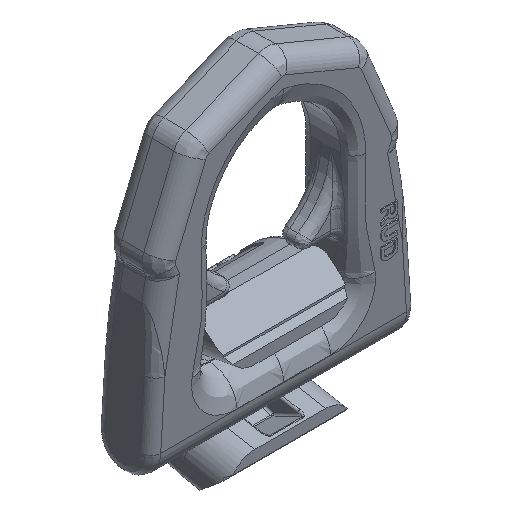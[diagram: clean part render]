
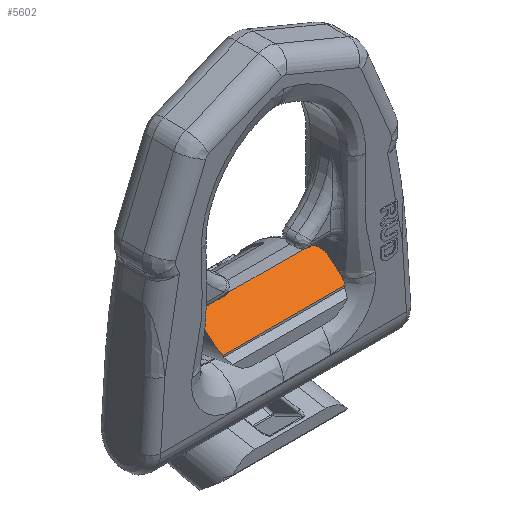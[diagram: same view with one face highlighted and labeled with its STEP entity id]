
A CAD part, isometric view. The second image highlights one B-rep face of the part: STEP entity #5602.
In plain terms, the highlighted planar face has unit normal (0, -0.643, 0.766).
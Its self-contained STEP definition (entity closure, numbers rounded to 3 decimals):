
#2=DIRECTION('',(0.,-0.766,-0.643));
#3=VECTOR('',#2,5.783);
#4=CARTESIAN_POINT('',(-30.,11.5,33.305));
#5=LINE('',#4,#3);
#59=DIRECTION('',(0.,-0.766,-0.643));
#60=VECTOR('',#59,5.783);
#61=CARTESIAN_POINT('',(30.,11.5,33.305));
#62=LINE('',#61,#60);
#450=CARTESIAN_POINT('',(-29.347,3.,26.172));
#451=CARTESIAN_POINT('',(-29.787,4.335,27.293));
#452=CARTESIAN_POINT('',(-30.,5.692,28.431));
#453=CARTESIAN_POINT('',(-30.,7.07,29.587));
#481=CARTESIAN_POINT('',(25.,16.5,37.5));
#482=CARTESIAN_POINT('',(25.48,16.5,37.5));
#483=CARTESIAN_POINT('',(26.277,16.374,37.395));
#484=CARTESIAN_POINT('',(27.557,15.883,36.983));
#485=CARTESIAN_POINT('',(28.749,14.957,36.205));
#486=CARTESIAN_POINT('',(29.704,13.48,34.966));
#487=CARTESIAN_POINT('',(30.,12.236,33.922));
#488=CARTESIAN_POINT('',(30.,11.5,33.305));
#494=DIRECTION('',(1.,0.,0.));
#495=VECTOR('',#494,50.);
#496=CARTESIAN_POINT('',(-25.,16.5,37.5));
#497=LINE('',#496,#495);
#511=CARTESIAN_POINT('',(-30.,11.5,33.305));
#512=CARTESIAN_POINT('',(-30.,12.236,33.922));
#513=CARTESIAN_POINT('',(-29.704,13.48,34.966));
#514=CARTESIAN_POINT('',(-28.749,14.957,36.205));
#515=CARTESIAN_POINT('',(-27.557,15.883,36.983));
#516=CARTESIAN_POINT('',(-26.277,16.374,37.395));
#517=CARTESIAN_POINT('',(-25.48,16.5,37.5));
#518=CARTESIAN_POINT('',(-25.,16.5,37.5));
#4043=CARTESIAN_POINT('',(30.,7.07,29.587));
#4044=CARTESIAN_POINT('',(30.,5.692,28.431));
#4045=CARTESIAN_POINT('',(29.787,4.335,27.293));
#4046=CARTESIAN_POINT('',(29.347,3.,26.172));
#4069=DIRECTION('',(-1.,0.,0.));
#4070=VECTOR('',#4069,58.693);
#4071=CARTESIAN_POINT('',(29.347,3.,26.172));
#4072=LINE('',#4071,#4070);
#4269=CARTESIAN_POINT('',(25.,16.5,37.5));
#4271=VERTEX_POINT('',#4269);
#4274=CARTESIAN_POINT('',(-25.,16.5,37.5));
#4276=VERTEX_POINT('',#4274);
#4569=CARTESIAN_POINT('',(30.,7.07,29.587));
#4570=VERTEX_POINT('',#4569);
#4571=CARTESIAN_POINT('',(-30.,7.07,29.587));
#4572=VERTEX_POINT('',#4571);
#4575=CARTESIAN_POINT('',(30.,11.5,33.305));
#4576=VERTEX_POINT('',#4575);
#4577=CARTESIAN_POINT('',(-30.,11.5,33.305));
#4578=VERTEX_POINT('',#4577);
#4822=VERTEX_POINT('',#4046);
#4823=VERTEX_POINT('',#450);
#5582=CARTESIAN_POINT('',(36.,16.5,37.5));
#5583=DIRECTION('',(0.,-0.643,0.766));
#5584=DIRECTION('',(0.,-0.766,-0.643));
#5585=AXIS2_PLACEMENT_3D('',#5582,#5583,#5584);
#5586=PLANE('',#5585);
#5588=ORIENTED_EDGE('',*,*,#5587,.T.);
#5589=ORIENTED_EDGE('',*,*,#5011,.T.);
#5591=ORIENTED_EDGE('',*,*,#5590,.T.);
#5593=ORIENTED_EDGE('',*,*,#5592,.T.);
#5594=ORIENTED_EDGE('',*,*,#5568,.T.);
#5595=ORIENTED_EDGE('',*,*,#4921,.F.);
#5597=ORIENTED_EDGE('',*,*,#5596,.T.);
#5599=ORIENTED_EDGE('',*,*,#5598,.T.);
#5600=EDGE_LOOP('',(#5588,#5589,#5591,#5593,#5594,#5595,#5597,#5599));
#5601=FACE_OUTER_BOUND('',#5600,.F.);
#5602=ADVANCED_FACE('',(#5601),#5586,.T.);
#454=B_SPLINE_CURVE_WITH_KNOTS('',3,(#450,#451,#452,#453),.UNSPECIFIED.,.F.,.F.,
(4,4),(0.,1.),.UNSPECIFIED.);
#489=B_SPLINE_CURVE_WITH_KNOTS('',3,(#481,#482,#483,#484,#485,#486,#487,#488),
.UNSPECIFIED.,.F.,.F.,(4,1,1,1,1,4),(0.,0.125,0.25,0.5,0.75,1.),
.UNSPECIFIED.);
#519=B_SPLINE_CURVE_WITH_KNOTS('',3,(#511,#512,#513,#514,#515,#516,#517,#518),
.UNSPECIFIED.,.F.,.F.,(4,1,1,1,1,4),(0.,0.25,0.5,0.75,0.875,1.),
.UNSPECIFIED.);
#4047=B_SPLINE_CURVE_WITH_KNOTS('',3,(#4043,#4044,#4045,#4046),.UNSPECIFIED.,
.F.,.F.,(4,4),(0.,1.),.UNSPECIFIED.);
#4921=EDGE_CURVE('',#4578,#4572,#5,.T.);
#5011=EDGE_CURVE('',#4576,#4570,#62,.T.);
#5568=EDGE_CURVE('',#4823,#4572,#454,.T.);
#5587=EDGE_CURVE('',#4271,#4576,#489,.T.);
#5590=EDGE_CURVE('',#4570,#4822,#4047,.T.);
#5592=EDGE_CURVE('',#4822,#4823,#4072,.T.);
#5596=EDGE_CURVE('',#4578,#4276,#519,.T.);
#5598=EDGE_CURVE('',#4276,#4271,#497,.T.);
